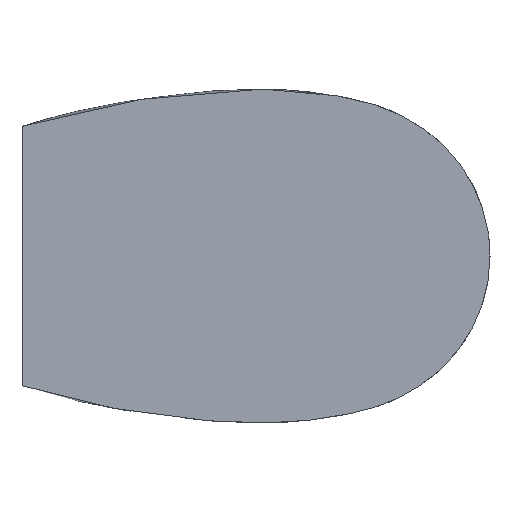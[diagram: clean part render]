
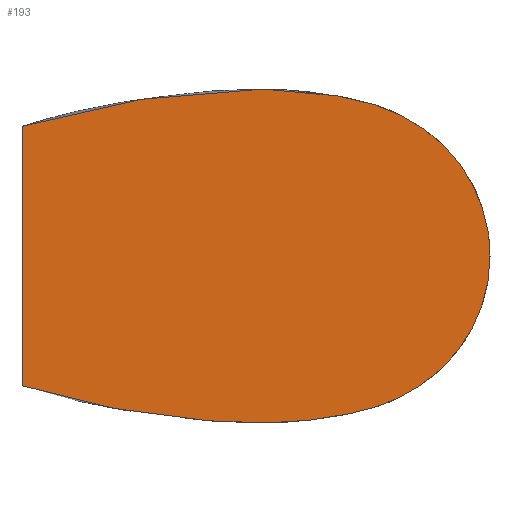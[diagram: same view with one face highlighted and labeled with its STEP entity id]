
A CAD part, left-side view. The second image highlights one B-rep face of the part: STEP entity #193.
In plain terms, the highlighted planar face has unit normal (-1, 0, 0).
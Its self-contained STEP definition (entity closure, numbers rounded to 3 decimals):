
#6=DIRECTION('',(0.,0.,1.));
#7=VECTOR('',#6,2.33);
#8=CARTESIAN_POINT('',(-9.,-0.3,-1.165));
#9=LINE('',#8,#7);
#10=CARTESIAN_POINT('',(-9.,-0.3,1.165));
#11=CARTESIAN_POINT('',(-9.,-0.459,1.215));
#12=CARTESIAN_POINT('',(-9.,-0.7,1.281));
#13=CARTESIAN_POINT('',(-9.,-1.025,1.351));
#14=CARTESIAN_POINT('',(-9.,-1.229,1.386));
#15=CARTESIAN_POINT('',(-9.,-1.394,1.41));
#16=CARTESIAN_POINT('',(-9.,-1.519,1.426));
#17=CARTESIAN_POINT('',(-9.,-1.645,1.44));
#18=CARTESIAN_POINT('',(-9.,-1.772,1.457));
#19=CARTESIAN_POINT('',(-9.,-1.901,1.472));
#20=CARTESIAN_POINT('',(-9.,-2.077,1.489));
#21=CARTESIAN_POINT('',(-9.,-2.328,1.502));
#22=CARTESIAN_POINT('',(-9.,-2.658,1.497));
#23=CARTESIAN_POINT('',(-9.,-2.959,1.468));
#24=CARTESIAN_POINT('',(-9.,-3.202,1.425));
#25=CARTESIAN_POINT('',(-9.,-3.386,1.385));
#26=CARTESIAN_POINT('',(-9.,-3.568,1.327));
#27=CARTESIAN_POINT('',(-9.,-3.8,1.221));
#28=CARTESIAN_POINT('',(-9.,-4.065,1.036));
#29=CARTESIAN_POINT('',(-9.,-4.271,0.786));
#30=CARTESIAN_POINT('',(-9.,-4.39,0.558));
#31=CARTESIAN_POINT('',(-9.,-4.454,0.377));
#32=CARTESIAN_POINT('',(-9.,-4.493,0.19));
#33=CARTESIAN_POINT('',(-9.,-4.502,0.063));
#34=CARTESIAN_POINT('',(-9.,-4.502,0.));
#36=CARTESIAN_POINT('',(-9.,-4.502,0.));
#37=CARTESIAN_POINT('',(-9.,-4.502,-0.063));
#38=CARTESIAN_POINT('',(-9.,-4.493,-0.19));
#39=CARTESIAN_POINT('',(-9.,-4.454,-0.377));
#40=CARTESIAN_POINT('',(-9.,-4.39,-0.558));
#41=CARTESIAN_POINT('',(-9.,-4.271,-0.786));
#42=CARTESIAN_POINT('',(-9.,-4.065,-1.036));
#43=CARTESIAN_POINT('',(-9.,-3.8,-1.221));
#44=CARTESIAN_POINT('',(-9.,-3.568,-1.327));
#45=CARTESIAN_POINT('',(-9.,-3.386,-1.385));
#46=CARTESIAN_POINT('',(-9.,-3.202,-1.425));
#47=CARTESIAN_POINT('',(-9.,-2.959,-1.468));
#48=CARTESIAN_POINT('',(-9.,-2.658,-1.497));
#49=CARTESIAN_POINT('',(-9.,-2.328,-1.502));
#50=CARTESIAN_POINT('',(-9.,-2.077,-1.489));
#51=CARTESIAN_POINT('',(-9.,-1.901,-1.472));
#52=CARTESIAN_POINT('',(-9.,-1.772,-1.457));
#53=CARTESIAN_POINT('',(-9.,-1.645,-1.44));
#54=CARTESIAN_POINT('',(-9.,-1.519,-1.426));
#55=CARTESIAN_POINT('',(-9.,-1.394,-1.41));
#56=CARTESIAN_POINT('',(-9.,-1.229,-1.386));
#57=CARTESIAN_POINT('',(-9.,-1.025,-1.351));
#58=CARTESIAN_POINT('',(-9.,-0.7,-1.281));
#59=CARTESIAN_POINT('',(-9.,-0.459,-1.215));
#60=CARTESIAN_POINT('',(-9.,-0.3,-1.165));
#158=CARTESIAN_POINT('',(-9.,-0.3,-1.165));
#159=CARTESIAN_POINT('',(-9.,-0.3,1.165));
#160=VERTEX_POINT('',#158);
#161=VERTEX_POINT('',#159);
#162=VERTEX_POINT('',#36);
#181=CARTESIAN_POINT('',(-9.,0.,0.));
#182=DIRECTION('',(1.,0.,0.));
#183=DIRECTION('',(0.,0.,-1.));
#184=AXIS2_PLACEMENT_3D('',#181,#182,#183);
#185=PLANE('',#184);
#186=ORIENTED_EDGE('',*,*,#168,.T.);
#188=ORIENTED_EDGE('',*,*,#187,.T.);
#190=ORIENTED_EDGE('',*,*,#189,.T.);
#191=EDGE_LOOP('',(#186,#188,#190));
#192=FACE_OUTER_BOUND('',#191,.F.);
#193=ADVANCED_FACE('',(#192),#185,.F.);
#35=B_SPLINE_CURVE_WITH_KNOTS('',3,(#10,#11,#12,#13,#14,#15,#16,#17,#18,#19,#20,
#21,#22,#23,#24,#25,#26,#27,#28,#29,#30,#31,#32,#33,#34),.UNSPECIFIED.,.F.,.F.,(
4,1,1,1,1,1,1,1,1,1,1,1,1,1,1,1,1,1,1,1,1,1,4),(0.,0.099,
0.149,0.198,0.223,0.248,
0.273,0.298,0.324,0.35,
0.403,0.474,0.546,0.583,
0.621,0.658,0.696,0.772,
0.848,0.887,0.925,0.962,1.),
.UNSPECIFIED.);
#61=B_SPLINE_CURVE_WITH_KNOTS('',3,(#36,#37,#38,#39,#40,#41,#42,#43,#44,#45,#46,
#47,#48,#49,#50,#51,#52,#53,#54,#55,#56,#57,#58,#59,#60),.UNSPECIFIED.,.F.,.F.,(
4,1,1,1,1,1,1,1,1,1,1,1,1,1,1,1,1,1,1,1,1,1,4),(0.,0.038,
0.075,0.113,0.152,0.228,
0.304,0.342,0.379,0.417,
0.454,0.526,0.597,0.65,
0.676,0.702,0.727,0.752,
0.777,0.802,0.851,0.901,1.),
.UNSPECIFIED.);
#168=EDGE_CURVE('',#160,#161,#9,.T.);
#187=EDGE_CURVE('',#161,#162,#35,.T.);
#189=EDGE_CURVE('',#162,#160,#61,.T.);
